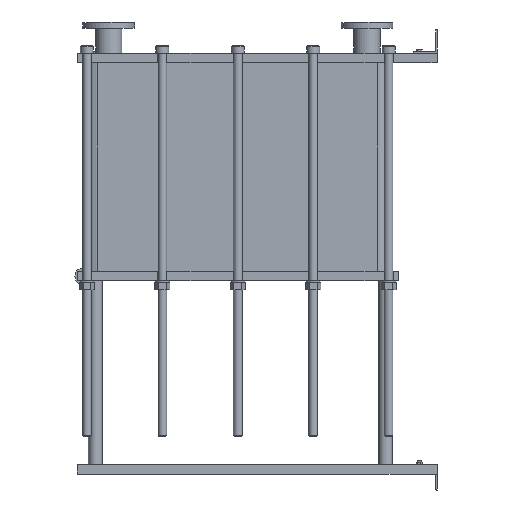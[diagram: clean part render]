
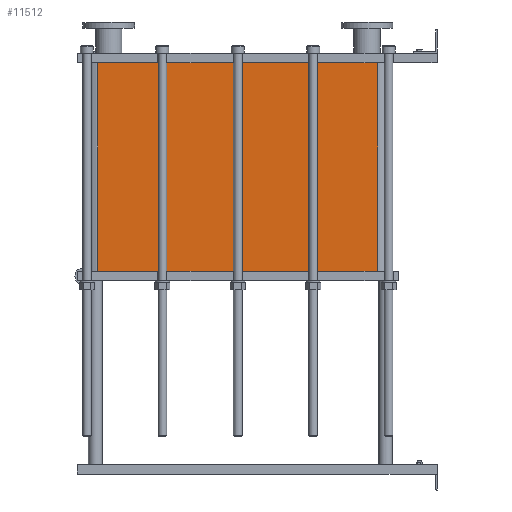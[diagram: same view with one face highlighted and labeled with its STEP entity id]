
A CAD part, left-side view. The second image highlights one B-rep face of the part: STEP entity #11512.
In plain terms, the highlighted planar face has unit normal (-1, 0, 0).
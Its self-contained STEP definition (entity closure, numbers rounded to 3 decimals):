
#1129=LINE('',#23232,#2102);
#1130=LINE('',#23236,#2103);
#1131=LINE('',#23238,#2104);
#1132=LINE('',#23239,#2105);
#2102=VECTOR('',#15887,10.);
#2103=VECTOR('',#15892,10.);
#2104=VECTOR('',#15893,10.);
#2105=VECTOR('',#15894,10.);
#3267=FACE_OUTER_BOUND('',#4093,.T.);
#4093=EDGE_LOOP('',(#10103,#10104,#10105,#10106));
#5642=VERTEX_POINT('',#23229);
#5643=VERTEX_POINT('',#23231);
#5644=VERTEX_POINT('',#23235);
#5645=VERTEX_POINT('',#23237);
#7159=EDGE_CURVE('',#5643,#5642,#1129,.T.);
#7161=EDGE_CURVE('',#5642,#5644,#1130,.T.);
#7162=EDGE_CURVE('',#5645,#5644,#1131,.T.);
#7163=EDGE_CURVE('',#5645,#5643,#1132,.T.);
#10103=ORIENTED_EDGE('',*,*,#7161,.T.);
#10104=ORIENTED_EDGE('',*,*,#7162,.F.);
#10105=ORIENTED_EDGE('',*,*,#7163,.T.);
#10106=ORIENTED_EDGE('',*,*,#7159,.T.);
#10857=PLANE('',#12751);
#11512=ADVANCED_FACE('',(#3267),#10857,.T.);
#12751=AXIS2_PLACEMENT_3D('',#23234,#15890,#15891);
#15887=DIRECTION('',(0.,0.,-1.));
#15890=DIRECTION('center_axis',(-1.,0.,0.));
#15891=DIRECTION('ref_axis',(0.,1.,0.));
#15892=DIRECTION('',(0.,-1.,0.));
#15893=DIRECTION('',(0.,0.,-1.));
#15894=DIRECTION('',(0.,1.,0.));
#23229=CARTESIAN_POINT('',(-200.,1414.,-869.4));
#23231=CARTESIAN_POINT('',(-200.,1414.,0.));
#23232=CARTESIAN_POINT('',(-200.,1414.,0.));
#23234=CARTESIAN_POINT('Origin',(-200.,248.,0.));
#23235=CARTESIAN_POINT('',(-200.,248.,-869.4));
#23236=CARTESIAN_POINT('',(-200.,539.5,-869.4));
#23237=CARTESIAN_POINT('',(-200.,248.,0.));
#23238=CARTESIAN_POINT('',(-200.,248.,0.));
#23239=CARTESIAN_POINT('',(-200.,248.,0.));
